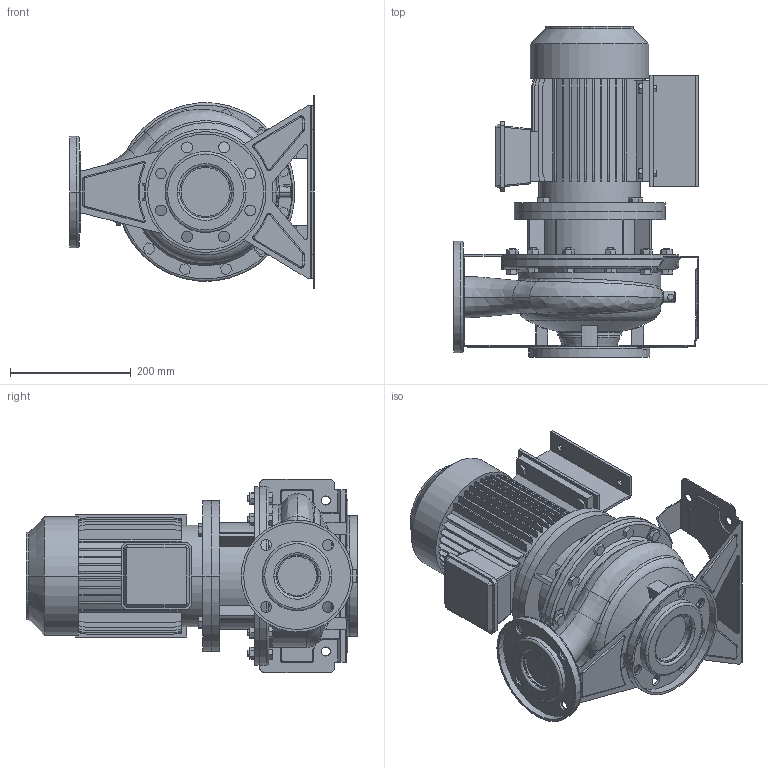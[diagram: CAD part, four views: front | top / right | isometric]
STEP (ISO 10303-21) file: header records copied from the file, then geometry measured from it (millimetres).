
FILE_DESCRIPTION((''),'2;1');
FILE_NAME('3S4_65-200_3_IE2_ASM','2015-11-23T',('rosa'),('"Ebara Pumps Europe +39.444.706811"'),'PRO/ENGINEER BY PARAMETRIC TECHNOLOGY CORPORATION, 2012130','PRO/ENGINEER BY PARAMETRIC TECHNOLOGY CORPORATION, 2012130','');
FILE_SCHEMA(('AUTOMOTIVE_DESIGN { 1 0 10303 214 1 1 1 1 }'));
Length unit declared in the file: millimetre
Products named in the file (12): LAFERT_MEC100L_B35_IE2; SUPPORTO_3S_230_100_112; SOSTEGNO_72220; CORPO_65-200_AF0; ASP_65-200; FLANGIA_DIN_80_8_FORI; MAND_65-200; FLANGIA_DIN_65; BASE_3M_65-200; CORPO_SALDATO_65-200_ASM; M10X22; 3S4_65-200_3_IE2_ASM
Assembly tree (15 placements, depth 3):
  3S4_65-200_3_IE2_ASM
    LAFERT_MEC100L_B35_IE2
    SUPPORTO_3S_230_100_112
    SOSTEGNO_72220  x2
    CORPO_SALDATO_65-200_ASM
      CORPO_65-200_AF0
      ASP_65-200
      FLANGIA_DIN_80_8_FORI
      MAND_65-200
      FLANGIA_DIN_65
      BASE_3M_65-200
    M10X22  x4
Bounding box: 405 x 548 x 320 mm (x, y, z)
Volume: 16295640.3 mm3; surface area: 1635143.2 mm2
Topology: 17 solids, 17 shells, 1171 faces, 2972 edges, 1950 vertices
Faces by surface type: plane 735, cylinder 299, torus 58, cone 48, bspline 25, sphere 6
Entity records: 46887 total; most frequent: CARTESIAN_POINT 9072, DIRECTION 5679, ORIENTED_EDGE 5560, PRESENTATION_STYLE_ASSIGNMENT 2793, STYLED_ITEM 2793, CURVE_STYLE 2780, EDGE_CURVE 2780, AXIS2_PLACEMENT_3D 1897
